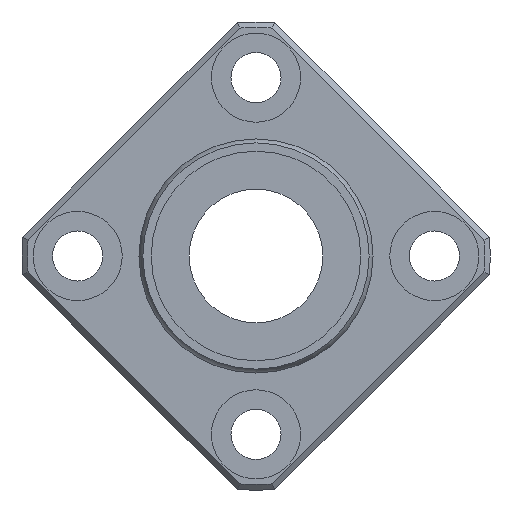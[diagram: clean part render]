
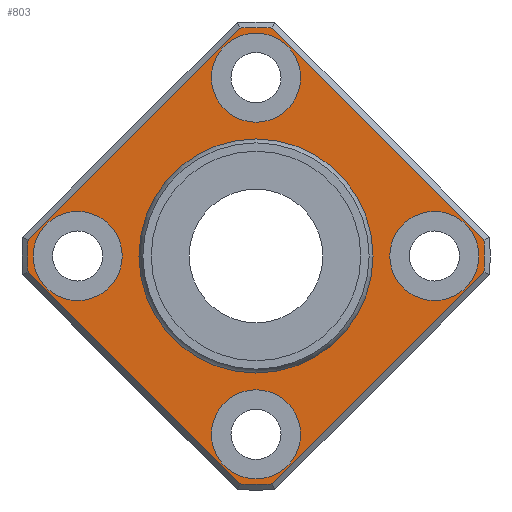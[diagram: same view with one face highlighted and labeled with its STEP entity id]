
A CAD part, left-side view. The second image highlights one B-rep face of the part: STEP entity #803.
In plain terms, the highlighted planar face has unit normal (-1, 0, 0).
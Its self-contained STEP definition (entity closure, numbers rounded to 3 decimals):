
#498=CARTESIAN_POINT('',(25.5,-1.473,-20.447));
#499=VERTEX_POINT('',#498);
#507=CARTESIAN_POINT('',(25.5,1.473,-20.447));
#508=VERTEX_POINT('',#507);
#509=CARTESIAN_POINT('',(25.5,0.0,0.0));
#510=DIRECTION('',(1.0,0.0,0.0));
#511=DIRECTION('',(0.0,0.0,-1.0));
#512=AXIS2_PLACEMENT_3D('',#509,#510,#511);
#513=CIRCLE('',#512,20.5);
#514=EDGE_CURVE('',#499,#508,#513,.T.);
#540=CARTESIAN_POINT('',(25.5,20.447,-1.473));
#541=VERTEX_POINT('',#540);
#542=CARTESIAN_POINT('',(25.5,1.473,-20.447));
#543=DIRECTION('',(0.0,0.707,0.707));
#544=VECTOR('',#543,26.833);
#545=LINE('',#542,#544);
#546=EDGE_CURVE('',#508,#541,#545,.T.);
#573=CARTESIAN_POINT('',(25.5,20.447,1.473));
#574=VERTEX_POINT('',#573);
#575=CARTESIAN_POINT('',(25.5,0.0,0.0));
#576=DIRECTION('',(1.0,0.0,0.0));
#577=DIRECTION('',(0.0,0.0,1.0));
#578=AXIS2_PLACEMENT_3D('',#575,#576,#577);
#579=CIRCLE('',#578,20.5);
#580=EDGE_CURVE('',#541,#574,#579,.T.);
#604=CARTESIAN_POINT('',(25.5,1.473,20.447));
#605=VERTEX_POINT('',#604);
#606=CARTESIAN_POINT('',(25.5,20.447,1.473));
#607=DIRECTION('',(0.0,-0.707,0.707));
#608=VECTOR('',#607,26.833);
#609=LINE('',#606,#608);
#610=EDGE_CURVE('',#574,#605,#609,.T.);
#629=CARTESIAN_POINT('',(25.5,-1.473,20.447));
#630=VERTEX_POINT('',#629);
#631=CARTESIAN_POINT('',(25.5,0.0,0.0));
#632=DIRECTION('',(1.0,0.0,0.0));
#633=DIRECTION('',(0.0,0.0,1.0));
#634=AXIS2_PLACEMENT_3D('',#631,#632,#633);
#635=CIRCLE('',#634,20.5);
#636=EDGE_CURVE('',#605,#630,#635,.T.);
#655=CARTESIAN_POINT('',(25.5,-20.447,1.473));
#656=VERTEX_POINT('',#655);
#657=CARTESIAN_POINT('',(25.5,-1.473,20.447));
#658=DIRECTION('',(0.0,-0.707,-0.707));
#659=VECTOR('',#658,26.833);
#660=LINE('',#657,#659);
#661=EDGE_CURVE('',#630,#656,#660,.T.);
#680=CARTESIAN_POINT('',(25.5,-20.447,-1.473));
#681=VERTEX_POINT('',#680);
#682=CARTESIAN_POINT('',(25.5,0.0,0.0));
#683=DIRECTION('',(1.0,0.0,0.0));
#684=DIRECTION('',(0.0,0.0,1.0));
#685=AXIS2_PLACEMENT_3D('',#682,#683,#684);
#686=CIRCLE('',#685,20.5);
#687=EDGE_CURVE('',#656,#681,#686,.T.);
#706=CARTESIAN_POINT('',(25.5,-20.447,-1.473));
#707=DIRECTION('',(0.0,0.707,-0.707));
#708=VECTOR('',#707,26.833);
#709=LINE('',#706,#708);
#710=EDGE_CURVE('',#681,#499,#709,.T.);
#733=CARTESIAN_POINT('',(25.5,0.0,15.643));
#734=DIRECTION('',(-1.0,0.0,0.0));
#735=DIRECTION('',(0.0,0.0,1.0));
#736=AXIS2_PLACEMENT_3D('',#733,#734,#735);
#737=PLANE('',#736);
#738=ORIENTED_EDGE('',*,*,#514,.F.);
#739=ORIENTED_EDGE('',*,*,#710,.F.);
#740=ORIENTED_EDGE('',*,*,#687,.F.);
#741=ORIENTED_EDGE('',*,*,#661,.F.);
#742=ORIENTED_EDGE('',*,*,#636,.F.);
#743=ORIENTED_EDGE('',*,*,#610,.F.);
#744=ORIENTED_EDGE('',*,*,#580,.F.);
#745=ORIENTED_EDGE('',*,*,#546,.F.);
#746=EDGE_LOOP('',(#738,#739,#740,#741,#742,#743,#744,#745));
#747=FACE_OUTER_BOUND('',#746,.T.);
#748=CARTESIAN_POINT('',(25.5,0.0,10.286));
#749=VERTEX_POINT('',#748);
#750=CARTESIAN_POINT('',(25.5,0.0,0.0));
#751=DIRECTION('',(-1.0,0.0,0.0));
#752=DIRECTION('',(0.0,0.0,1.0));
#753=AXIS2_PLACEMENT_3D('',#750,#751,#752);
#754=CIRCLE('',#753,10.286);
#755=EDGE_CURVE('',#749,#749,#754,.T.);
#756=ORIENTED_EDGE('',*,*,#755,.F.);
#757=EDGE_LOOP('',(#756));
#758=FACE_BOUND('',#757,.T.);
#759=CARTESIAN_POINT('',(25.5,-12.,0.));
#760=VERTEX_POINT('',#759);
#761=CARTESIAN_POINT('',(25.5,-16.0,0.));
#762=DIRECTION('',(1.0,0.0,0.0));
#763=DIRECTION('',(0.0,1.0,0.0));
#764=AXIS2_PLACEMENT_3D('',#761,#762,#763);
#765=CIRCLE('',#764,4.0);
#766=EDGE_CURVE('',#760,#760,#765,.T.);
#767=ORIENTED_EDGE('',*,*,#766,.T.);
#768=EDGE_LOOP('',(#767));
#769=FACE_BOUND('',#768,.T.);
#770=CARTESIAN_POINT('',(25.5,20.0,0.));
#771=VERTEX_POINT('',#770);
#772=CARTESIAN_POINT('',(25.5,16.0,0.));
#773=DIRECTION('',(1.0,0.0,0.0));
#774=DIRECTION('',(0.0,1.0,0.0));
#775=AXIS2_PLACEMENT_3D('',#772,#773,#774);
#776=CIRCLE('',#775,4.0);
#777=EDGE_CURVE('',#771,#771,#776,.T.);
#778=ORIENTED_EDGE('',*,*,#777,.T.);
#779=EDGE_LOOP('',(#778));
#780=FACE_BOUND('',#779,.T.);
#781=CARTESIAN_POINT('',(25.5,4.,16.0));
#782=VERTEX_POINT('',#781);
#783=CARTESIAN_POINT('',(25.5,0.,16.0));
#784=DIRECTION('',(1.0,0.0,0.0));
#785=DIRECTION('',(0.0,1.0,0.0));
#786=AXIS2_PLACEMENT_3D('',#783,#784,#785);
#787=CIRCLE('',#786,4.0);
#788=EDGE_CURVE('',#782,#782,#787,.T.);
#789=ORIENTED_EDGE('',*,*,#788,.T.);
#790=EDGE_LOOP('',(#789));
#791=FACE_BOUND('',#790,.T.);
#792=CARTESIAN_POINT('',(25.5,4.,-16.0));
#793=VERTEX_POINT('',#792);
#794=CARTESIAN_POINT('',(25.5,0.,-16.0));
#795=DIRECTION('',(1.0,0.0,0.0));
#796=DIRECTION('',(0.0,1.0,0.0));
#797=AXIS2_PLACEMENT_3D('',#794,#795,#796);
#798=CIRCLE('',#797,4.0);
#799=EDGE_CURVE('',#793,#793,#798,.T.);
#800=ORIENTED_EDGE('',*,*,#799,.T.);
#801=EDGE_LOOP('',(#800));
#802=FACE_BOUND('',#801,.T.);
#803=ADVANCED_FACE('',(#747,#758,#769,#780,#791,#802),#737,.T.);
